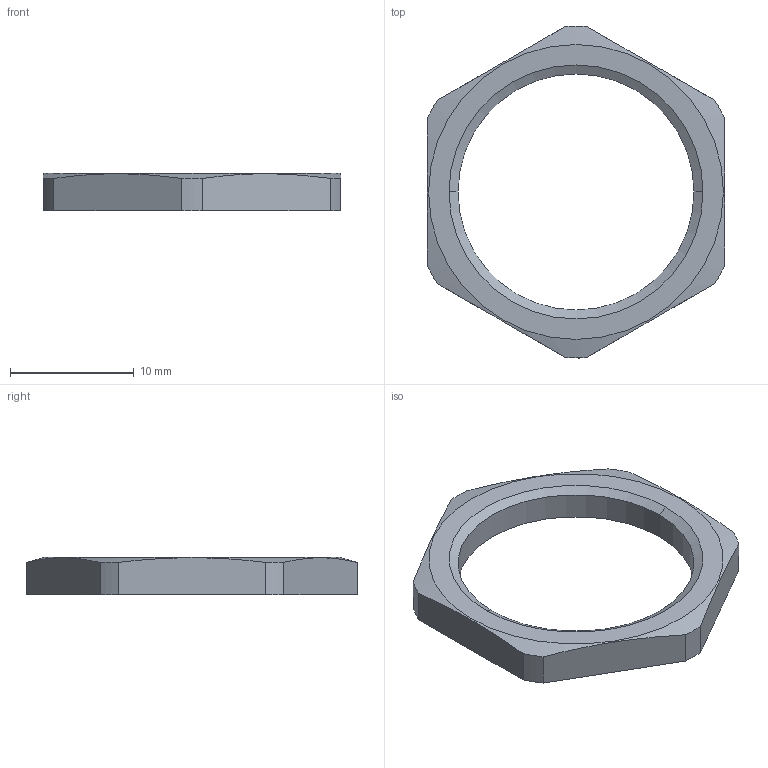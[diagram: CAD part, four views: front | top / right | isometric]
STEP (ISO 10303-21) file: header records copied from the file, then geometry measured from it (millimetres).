
FILE_DESCRIPTION (( 'STEP AP203' ), '1' );
FILE_NAME ('129213.STEP', '2006-11-03T09:36:53', ( ' ' ), ( '' ), 'SwSTEP 2.0', 'SolidWorks 2005278', '' );
FILE_SCHEMA (( 'CONFIG_CONTROL_DESIGN' ));
Length unit declared in the file: millimetre
Products named in the file (1): 129213
Bounding box: 24 x 26.79 x 3 mm (x, y, z)
Volume: 607.6 mm3; surface area: 800.9 mm2
Topology: 1 solids, 1 shells, 59 faces, 158 edges, 104 vertices
Faces by surface type: plane 45, cylinder 8, cone 6
Entity records: 1919 total; most frequent: CARTESIAN_POINT 354, ORIENTED_EDGE 316, DIRECTION 292, EDGE_CURVE 158, LINE 128, VECTOR 128, VERTEX_POINT 104, AXIS2_PLACEMENT_3D 82
